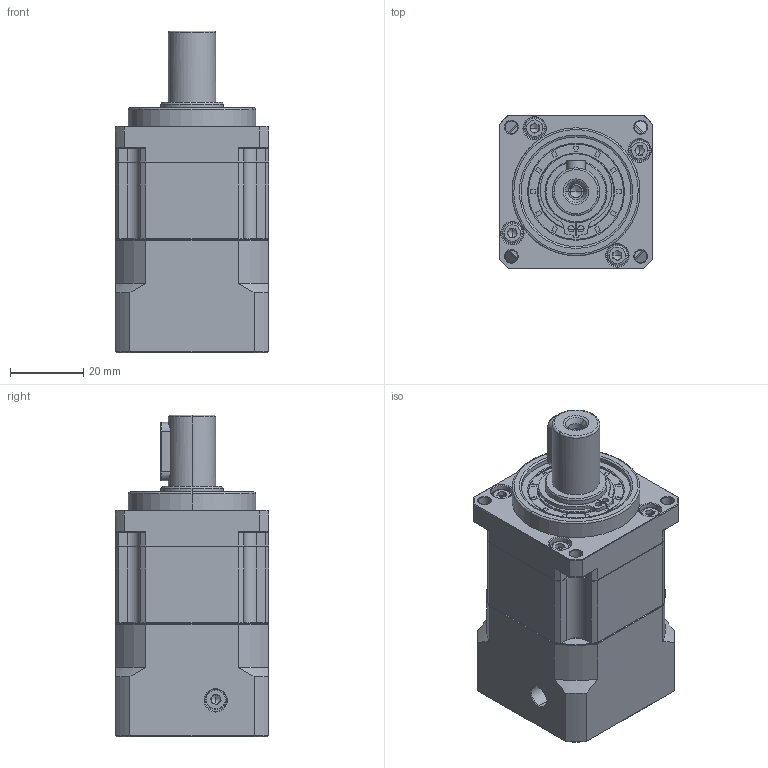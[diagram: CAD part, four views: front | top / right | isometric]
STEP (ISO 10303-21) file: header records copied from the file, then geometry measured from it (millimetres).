
FILE_DESCRIPTION (( 'STEP AP214' ), '1' );
FILE_NAME ('ZB040-L1-P2-8-30-46-M4.STEP', '2023-06-06T12:51:26', ( 'Windows 蚚誧' ), ( 'Organization' ), 'SwSTEP 2.0', 'SolidWorks 2016', '' );
FILE_SCHEMA (( 'AUTOMOTIVE_DESIGN' ));
Length unit declared in the file: millimetre
Products named in the file (1): ZB040-L1-P2-8-30-46-M4
Bounding box: 42 x 42 x 88 mm (x, y, z)
Volume: 98819.1 mm3; surface area: 26820.5 mm2
Topology: 6 solids, 6 shells, 1694 faces, 4386 edges, 2780 vertices
Faces by surface type: plane 675, cylinder 417, cone 303, bspline 279, torus 20
Entity records: 90114 total; most frequent: CARTESIAN_POINT 32690, ORIENTED_EDGE 8712, DIRECTION 7044, EDGE_CURVE 4356, VERTEX_POINT 2780, LINE 2436, VECTOR 2436, AXIS2_PLACEMENT_3D 2304
